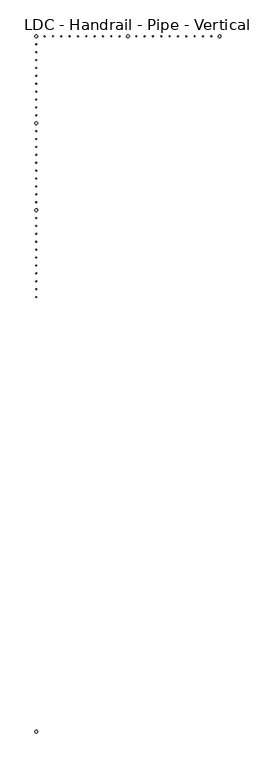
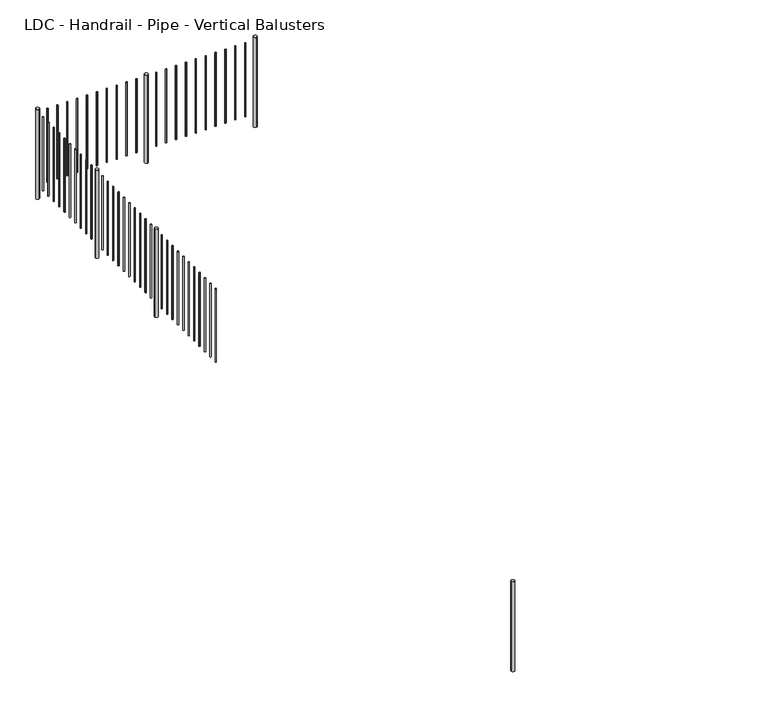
"""IFC4 building model written with IfcOpenShell, lengths in millimetres: railing geometry, LDC - Handrail - Pipe - Vertical Balusters."""

from ifc_helpers import new_model, si_unit, point, frame, frame_2d, origin, place, context, project, spatial, circle_curve, trimmed, segment, composite_curve, outline, extrude, source, transform, mapped, element, save


def ldc_handrail_pipe_vertical_balusters_2524e2be(model_context):
    return source(origin(), model_context, "Body", "SweptSolid", [
        extrude(outline(composite_curve([segment(trimmed(circle_curve(frame_2d((-5379.5016552, 6135.845986)), 6.35), [point((-5373.1516552, 6135.845986))], [point((-5385.8516552, 6135.845986))], False, "CARTESIAN"), True, "CONTINUOUS"), segment(trimmed(circle_curve(frame_2d((-5379.5016552, 6135.845986)), 6.35), [point((-5385.8516552, 6135.845986))], [point((-5373.1516552, 6135.845986))], False, "CARTESIAN"), True, "CONTINUOUS")], self_intersect=False)), frame((0.0, 0.0, 3217.1625), z_axis=(0.0, 0.0, 1.0), x_axis=(1.0, 0.0, 0.0)), (0.0, 0.0, 1.0), 871.5375),
        extrude(outline(composite_curve([segment(trimmed(circle_curve(frame_2d((-5379.5016552, 6240.9817815)), 6.35), [point((-5373.1516552, 6240.9817815))], [point((-5385.8516552, 6240.9817815))], False, "CARTESIAN"), True, "CONTINUOUS"), segment(trimmed(circle_curve(frame_2d((-5379.5016552, 6240.9817815)), 6.35), [point((-5385.8516552, 6240.9817815))], [point((-5373.1516552, 6240.9817815))], False, "CARTESIAN"), True, "CONTINUOUS")], self_intersect=False)), frame((0.0, 0.0, 3217.1625), z_axis=(0.0, 0.0, 1.0), x_axis=(1.0, 0.0, 0.0)), (0.0, 0.0, 1.0), 871.5375),
        extrude(outline(composite_curve([segment(trimmed(circle_curve(frame_2d((-5379.5016552, 6346.1175769)), 6.35), [point((-5373.1516552, 6346.1175769))], [point((-5385.8516552, 6346.1175769))], False, "CARTESIAN"), True, "CONTINUOUS"), segment(trimmed(circle_curve(frame_2d((-5379.5016552, 6346.1175769)), 6.35), [point((-5385.8516552, 6346.1175769))], [point((-5373.1516552, 6346.1175769))], False, "CARTESIAN"), True, "CONTINUOUS")], self_intersect=False)), frame((0.0, 0.0, 3217.1625), z_axis=(0.0, 0.0, 1.0), x_axis=(1.0, 0.0, 0.0)), (0.0, 0.0, 1.0), 871.5375),
        extrude(outline(composite_curve([segment(trimmed(circle_curve(frame_2d((-5379.5016552, 6451.2533724)), 6.35), [point((-5373.1516552, 6451.2533724))], [point((-5385.8516552, 6451.2533724))], False, "CARTESIAN"), True, "CONTINUOUS"), segment(trimmed(circle_curve(frame_2d((-5379.5016552, 6451.2533724)), 6.35), [point((-5385.8516552, 6451.2533724))], [point((-5373.1516552, 6451.2533724))], False, "CARTESIAN"), True, "CONTINUOUS")], self_intersect=False)), frame((0.0, 0.0, 3217.1625), z_axis=(0.0, 0.0, 1.0), x_axis=(1.0, 0.0, 0.0)), (0.0, 0.0, 1.0), 871.5375),
        extrude(outline(composite_curve([segment(trimmed(circle_curve(frame_2d((-5379.5016552, 6556.3891678)), 6.35), [point((-5373.1516552, 6556.3891678))], [point((-5385.8516552, 6556.3891678))], False, "CARTESIAN"), True, "CONTINUOUS"), segment(trimmed(circle_curve(frame_2d((-5379.5016552, 6556.3891678)), 6.35), [point((-5385.8516552, 6556.3891678))], [point((-5373.1516552, 6556.3891678))], False, "CARTESIAN"), True, "CONTINUOUS")], self_intersect=False)), frame((0.0, 0.0, 3217.1625), z_axis=(0.0, 0.0, 1.0), x_axis=(1.0, 0.0, 0.0)), (0.0, 0.0, 1.0), 871.5375),
        extrude(outline(composite_curve([segment(trimmed(circle_curve(frame_2d((-5379.5016552, 6661.5249633)), 6.35), [point((-5373.1516552, 6661.5249633))], [point((-5385.8516552, 6661.5249633))], False, "CARTESIAN"), True, "CONTINUOUS"), segment(trimmed(circle_curve(frame_2d((-5379.5016552, 6661.5249633)), 6.35), [point((-5385.8516552, 6661.5249633))], [point((-5373.1516552, 6661.5249633))], False, "CARTESIAN"), True, "CONTINUOUS")], self_intersect=False)), frame((0.0, 0.0, 3217.1625), z_axis=(0.0, 0.0, 1.0), x_axis=(1.0, 0.0, 0.0)), (0.0, 0.0, 1.0), 871.5375),
        extrude(outline(composite_curve([segment(trimmed(circle_curve(frame_2d((-5379.5016552, 6766.6607587)), 6.35), [point((-5373.1516552, 6766.6607587))], [point((-5385.8516552, 6766.6607587))], False, "CARTESIAN"), True, "CONTINUOUS"), segment(trimmed(circle_curve(frame_2d((-5379.5016552, 6766.6607587)), 6.35), [point((-5385.8516552, 6766.6607587))], [point((-5373.1516552, 6766.6607587))], False, "CARTESIAN"), True, "CONTINUOUS")], self_intersect=False)), frame((0.0, 0.0, 3217.1625), z_axis=(0.0, 0.0, 1.0), x_axis=(1.0, 0.0, 0.0)), (0.0, 0.0, 1.0), 871.5375),
        extrude(outline(composite_curve([segment(trimmed(circle_curve(frame_2d((-5379.5016552, 6871.7965542)), 6.35), [point((-5373.1516552, 6871.7965542))], [point((-5385.8516552, 6871.7965542))], False, "CARTESIAN"), True, "CONTINUOUS"), segment(trimmed(circle_curve(frame_2d((-5379.5016552, 6871.7965542)), 6.35), [point((-5385.8516552, 6871.7965542))], [point((-5373.1516552, 6871.7965542))], False, "CARTESIAN"), True, "CONTINUOUS")], self_intersect=False)), frame((0.0, 0.0, 3217.1625), z_axis=(0.0, 0.0, 1.0), x_axis=(1.0, 0.0, 0.0)), (0.0, 0.0, 1.0), 871.5375),
        extrude(outline(composite_curve([segment(trimmed(circle_curve(frame_2d((-5379.5016552, 6976.9323497)), 6.35), [point((-5373.1516552, 6976.9323497))], [point((-5385.8516552, 6976.9323497))], False, "CARTESIAN"), True, "CONTINUOUS"), segment(trimmed(circle_curve(frame_2d((-5379.5016552, 6976.9323497)), 6.35), [point((-5385.8516552, 6976.9323497))], [point((-5373.1516552, 6976.9323497))], False, "CARTESIAN"), True, "CONTINUOUS")], self_intersect=False)), frame((0.0, 0.0, 3217.1625), z_axis=(0.0, 0.0, 1.0), x_axis=(1.0, 0.0, 0.0)), (0.0, 0.0, 1.0), 871.5375),
        extrude(outline(composite_curve([segment(trimmed(circle_curve(frame_2d((-5379.5016552, 7082.0681451)), 6.35), [point((-5373.1516552, 7082.0681451))], [point((-5385.8516552, 7082.0681451))], False, "CARTESIAN"), True, "CONTINUOUS"), segment(trimmed(circle_curve(frame_2d((-5379.5016552, 7082.0681451)), 6.35), [point((-5385.8516552, 7082.0681451))], [point((-5373.1516552, 7082.0681451))], False, "CARTESIAN"), True, "CONTINUOUS")], self_intersect=False)), frame((0.0, 0.0, 3217.1625), z_axis=(0.0, 0.0, 1.0), x_axis=(1.0, 0.0, 0.0)), (0.0, 0.0, 1.0), 871.5375),
        extrude(outline(composite_curve([segment(trimmed(circle_curve(frame_2d((-5379.5016552, 7187.2039406)), 6.35), [point((-5373.1516552, 7187.2039406))], [point((-5385.8516552, 7187.2039406))], False, "CARTESIAN"), True, "CONTINUOUS"), segment(trimmed(circle_curve(frame_2d((-5379.5016552, 7187.2039406)), 6.35), [point((-5385.8516552, 7187.2039406))], [point((-5373.1516552, 7187.2039406))], False, "CARTESIAN"), True, "CONTINUOUS")], self_intersect=False)), frame((0.0, 0.0, 3217.1625), z_axis=(0.0, 0.0, 1.0), x_axis=(1.0, 0.0, 0.0)), (0.0, 0.0, 1.0), 871.5375),
        extrude(outline(composite_curve([segment(trimmed(circle_curve(frame_2d((-5379.5016552, 7292.339736)), 19.05), [point((-5360.4516552, 7292.339736))], [point((-5398.5516552, 7292.339736))], False, "CARTESIAN"), True, "CONTINUOUS"), segment(trimmed(circle_curve(frame_2d((-5379.5016552, 7292.339736)), 19.05), [point((-5398.5516552, 7292.339736))], [point((-5360.4516552, 7292.339736))], False, "CARTESIAN"), True, "CONTINUOUS")], self_intersect=False)), frame((0.0, 0.0, 3060.0), z_axis=(0.0, 0.0, 1.0), x_axis=(1.0, 0.0, 0.0)), (0.0, 0.0, 1.0), 1047.75),
        extrude(outline(composite_curve([segment(trimmed(circle_curve(frame_2d((-5379.5016552, 7292.339736)), 6.35), [point((-5373.1516552, 7292.339736))], [point((-5385.8516552, 7292.339736))], False, "CARTESIAN"), True, "CONTINUOUS"), segment(trimmed(circle_curve(frame_2d((-5379.5016552, 7292.339736)), 6.35), [point((-5385.8516552, 7292.339736))], [point((-5373.1516552, 7292.339736))], False, "CARTESIAN"), True, "CONTINUOUS")], self_intersect=False)), frame((0.0, 0.0, 3217.1625), z_axis=(0.0, 0.0, 1.0), x_axis=(1.0, 0.0, 0.0)), (0.0, 0.0, 1.0), 871.5375),
        extrude(outline(composite_curve([segment(trimmed(circle_curve(frame_2d((-5379.5016552, 7397.4755315)), 6.35), [point((-5373.1516552, 7397.4755315))], [point((-5385.8516552, 7397.4755315))], False, "CARTESIAN"), True, "CONTINUOUS"), segment(trimmed(circle_curve(frame_2d((-5379.5016552, 7397.4755315)), 6.35), [point((-5385.8516552, 7397.4755315))], [point((-5373.1516552, 7397.4755315))], False, "CARTESIAN"), True, "CONTINUOUS")], self_intersect=False)), frame((0.0, 0.0, 3217.1625), z_axis=(0.0, 0.0, 1.0), x_axis=(1.0, 0.0, 0.0)), (0.0, 0.0, 1.0), 871.5375),
        extrude(outline(composite_curve([segment(trimmed(circle_curve(frame_2d((-5379.5016552, 7502.6113269)), 6.35), [point((-5373.1516552, 7502.6113269))], [point((-5385.8516552, 7502.6113269))], False, "CARTESIAN"), True, "CONTINUOUS"), segment(trimmed(circle_curve(frame_2d((-5379.5016552, 7502.6113269)), 6.35), [point((-5385.8516552, 7502.6113269))], [point((-5373.1516552, 7502.6113269))], False, "CARTESIAN"), True, "CONTINUOUS")], self_intersect=False)), frame((0.0, 0.0, 3217.1625), z_axis=(0.0, 0.0, 1.0), x_axis=(1.0, 0.0, 0.0)), (0.0, 0.0, 1.0), 871.5375),
        extrude(outline(composite_curve([segment(trimmed(circle_curve(frame_2d((-5379.5016552, 7607.7471224)), 6.35), [point((-5373.1516552, 7607.7471224))], [point((-5385.8516552, 7607.7471224))], False, "CARTESIAN"), True, "CONTINUOUS"), segment(trimmed(circle_curve(frame_2d((-5379.5016552, 7607.7471224)), 6.35), [point((-5385.8516552, 7607.7471224))], [point((-5373.1516552, 7607.7471224))], False, "CARTESIAN"), True, "CONTINUOUS")], self_intersect=False)), frame((0.0, 0.0, 3217.1625), z_axis=(0.0, 0.0, 1.0), x_axis=(1.0, 0.0, 0.0)), (0.0, 0.0, 1.0), 871.5375),
        extrude(outline(composite_curve([segment(trimmed(circle_curve(frame_2d((-5379.5016552, 7712.8829178)), 6.35), [point((-5373.1516552, 7712.8829178))], [point((-5385.8516552, 7712.8829178))], False, "CARTESIAN"), True, "CONTINUOUS"), segment(trimmed(circle_curve(frame_2d((-5379.5016552, 7712.8829178)), 6.35), [point((-5385.8516552, 7712.8829178))], [point((-5373.1516552, 7712.8829178))], False, "CARTESIAN"), True, "CONTINUOUS")], self_intersect=False)), frame((0.0, 0.0, 3217.1625), z_axis=(0.0, 0.0, 1.0), x_axis=(1.0, 0.0, 0.0)), (0.0, 0.0, 1.0), 871.5375),
        extrude(outline(composite_curve([segment(trimmed(circle_curve(frame_2d((-5379.5016552, 7818.0187133)), 6.35), [point((-5373.1516552, 7818.0187133))], [point((-5385.8516552, 7818.0187133))], False, "CARTESIAN"), True, "CONTINUOUS"), segment(trimmed(circle_curve(frame_2d((-5379.5016552, 7818.0187133)), 6.35), [point((-5385.8516552, 7818.0187133))], [point((-5373.1516552, 7818.0187133))], False, "CARTESIAN"), True, "CONTINUOUS")], self_intersect=False)), frame((0.0, 0.0, 3217.1625), z_axis=(0.0, 0.0, 1.0), x_axis=(1.0, 0.0, 0.0)), (0.0, 0.0, 1.0), 871.5375),
        extrude(outline(composite_curve([segment(trimmed(circle_curve(frame_2d((-5379.5016552, 7923.1545087)), 6.35), [point((-5373.1516552, 7923.1545087))], [point((-5385.8516552, 7923.1545087))], False, "CARTESIAN"), True, "CONTINUOUS"), segment(trimmed(circle_curve(frame_2d((-5379.5016552, 7923.1545087)), 6.35), [point((-5385.8516552, 7923.1545087))], [point((-5373.1516552, 7923.1545087))], False, "CARTESIAN"), True, "CONTINUOUS")], self_intersect=False)), frame((0.0, 0.0, 3217.1625), z_axis=(0.0, 0.0, 1.0), x_axis=(1.0, 0.0, 0.0)), (0.0, 0.0, 1.0), 871.5375),
        extrude(outline(composite_curve([segment(trimmed(circle_curve(frame_2d((-5379.5016552, 8028.2903042)), 6.35), [point((-5373.1516552, 8028.2903042))], [point((-5385.8516552, 8028.2903042))], False, "CARTESIAN"), True, "CONTINUOUS"), segment(trimmed(circle_curve(frame_2d((-5379.5016552, 8028.2903042)), 6.35), [point((-5385.8516552, 8028.2903042))], [point((-5373.1516552, 8028.2903042))], False, "CARTESIAN"), True, "CONTINUOUS")], self_intersect=False)), frame((0.0, 0.0, 3217.1625), z_axis=(0.0, 0.0, 1.0), x_axis=(1.0, 0.0, 0.0)), (0.0, 0.0, 1.0), 871.5375),
        extrude(outline(composite_curve([segment(trimmed(circle_curve(frame_2d((-5379.5016552, 8133.4260997)), 6.35), [point((-5373.1516552, 8133.4260997))], [point((-5385.8516552, 8133.4260997))], False, "CARTESIAN"), True, "CONTINUOUS"), segment(trimmed(circle_curve(frame_2d((-5379.5016552, 8133.4260997)), 6.35), [point((-5385.8516552, 8133.4260997))], [point((-5373.1516552, 8133.4260997))], False, "CARTESIAN"), True, "CONTINUOUS")], self_intersect=False)), frame((0.0, 0.0, 3217.1625), z_axis=(0.0, 0.0, 1.0), x_axis=(1.0, 0.0, 0.0)), (0.0, 0.0, 1.0), 871.5375),
        extrude(outline(composite_curve([segment(trimmed(circle_curve(frame_2d((-5379.5016552, 8238.5618951)), 6.35), [point((-5373.1516552, 8238.5618951))], [point((-5385.8516552, 8238.5618951))], False, "CARTESIAN"), True, "CONTINUOUS"), segment(trimmed(circle_curve(frame_2d((-5379.5016552, 8238.5618951)), 6.35), [point((-5385.8516552, 8238.5618951))], [point((-5373.1516552, 8238.5618951))], False, "CARTESIAN"), True, "CONTINUOUS")], self_intersect=False)), frame((0.0, 0.0, 3217.1625), z_axis=(0.0, 0.0, 1.0), x_axis=(1.0, 0.0, 0.0)), (0.0, 0.0, 1.0), 871.5375),
        extrude(outline(composite_curve([segment(trimmed(circle_curve(frame_2d((-5379.5016552, 8343.6976906)), 6.35), [point((-5373.1516552, 8343.6976906))], [point((-5385.8516552, 8343.6976906))], False, "CARTESIAN"), True, "CONTINUOUS"), segment(trimmed(circle_curve(frame_2d((-5379.5016552, 8343.6976906)), 6.35), [point((-5385.8516552, 8343.6976906))], [point((-5373.1516552, 8343.6976906))], False, "CARTESIAN"), True, "CONTINUOUS")], self_intersect=False)), frame((0.0, 0.0, 3217.1625), z_axis=(0.0, 0.0, 1.0), x_axis=(1.0, 0.0, 0.0)), (0.0, 0.0, 1.0), 871.5375),
        extrude(outline(composite_curve([segment(trimmed(circle_curve(frame_2d((-5379.5016552, 8448.833486)), 19.05), [point((-5360.4516552, 8448.833486))], [point((-5398.5516552, 8448.833486))], False, "CARTESIAN"), True, "CONTINUOUS"), segment(trimmed(circle_curve(frame_2d((-5379.5016552, 8448.833486)), 19.05), [point((-5398.5516552, 8448.833486))], [point((-5360.4516552, 8448.833486))], False, "CARTESIAN"), True, "CONTINUOUS")], self_intersect=False)), frame((0.0, 0.0, 3060.0), z_axis=(0.0, 0.0, 1.0), x_axis=(1.0, 0.0, 0.0)), (0.0, 0.0, 1.0), 1047.75),
        extrude(outline(composite_curve([segment(trimmed(circle_curve(frame_2d((-5379.5016552, 8448.833486)), 6.35), [point((-5373.1516552, 8448.833486))], [point((-5385.8516552, 8448.833486))], False, "CARTESIAN"), True, "CONTINUOUS"), segment(trimmed(circle_curve(frame_2d((-5379.5016552, 8448.833486)), 6.35), [point((-5385.8516552, 8448.833486))], [point((-5373.1516552, 8448.833486))], False, "CARTESIAN"), True, "CONTINUOUS")], self_intersect=False)), frame((0.0, 0.0, 3217.1625), z_axis=(0.0, 0.0, 1.0), x_axis=(1.0, 0.0, 0.0)), (0.0, 0.0, 1.0), 871.5375),
        extrude(outline(composite_curve([segment(trimmed(circle_curve(frame_2d((-5379.5016552, 8553.9692815)), 6.35), [point((-5373.1516552, 8553.9692815))], [point((-5385.8516552, 8553.9692815))], False, "CARTESIAN"), True, "CONTINUOUS"), segment(trimmed(circle_curve(frame_2d((-5379.5016552, 8553.9692815)), 6.35), [point((-5385.8516552, 8553.9692815))], [point((-5373.1516552, 8553.9692815))], False, "CARTESIAN"), True, "CONTINUOUS")], self_intersect=False)), frame((0.0, 0.0, 3217.1625), z_axis=(0.0, 0.0, 1.0), x_axis=(1.0, 0.0, 0.0)), (0.0, 0.0, 1.0), 871.5375),
        extrude(outline(composite_curve([segment(trimmed(circle_curve(frame_2d((-5379.5016552, 8659.1050769)), 6.35), [point((-5373.1516552, 8659.1050769))], [point((-5385.8516552, 8659.1050769))], False, "CARTESIAN"), True, "CONTINUOUS"), segment(trimmed(circle_curve(frame_2d((-5379.5016552, 8659.1050769)), 6.35), [point((-5385.8516552, 8659.1050769))], [point((-5373.1516552, 8659.1050769))], False, "CARTESIAN"), True, "CONTINUOUS")], self_intersect=False)), frame((0.0, 0.0, 3217.1625), z_axis=(0.0, 0.0, 1.0), x_axis=(1.0, 0.0, 0.0)), (0.0, 0.0, 1.0), 871.5375),
        extrude(outline(composite_curve([segment(trimmed(circle_curve(frame_2d((-5379.5016552, 8764.2408724)), 6.35), [point((-5373.1516552, 8764.2408724))], [point((-5385.8516552, 8764.2408724))], False, "CARTESIAN"), True, "CONTINUOUS"), segment(trimmed(circle_curve(frame_2d((-5379.5016552, 8764.2408724)), 6.35), [point((-5385.8516552, 8764.2408724))], [point((-5373.1516552, 8764.2408724))], False, "CARTESIAN"), True, "CONTINUOUS")], self_intersect=False)), frame((0.0, 0.0, 3217.1625), z_axis=(0.0, 0.0, 1.0), x_axis=(1.0, 0.0, 0.0)), (0.0, 0.0, 1.0), 871.5375),
        extrude(outline(composite_curve([segment(trimmed(circle_curve(frame_2d((-5379.5016552, 8869.3766678)), 6.35), [point((-5373.1516552, 8869.3766678))], [point((-5385.8516552, 8869.3766678))], False, "CARTESIAN"), True, "CONTINUOUS"), segment(trimmed(circle_curve(frame_2d((-5379.5016552, 8869.3766678)), 6.35), [point((-5385.8516552, 8869.3766678))], [point((-5373.1516552, 8869.3766678))], False, "CARTESIAN"), True, "CONTINUOUS")], self_intersect=False)), frame((0.0, 0.0, 3217.1625), z_axis=(0.0, 0.0, 1.0), x_axis=(1.0, 0.0, 0.0)), (0.0, 0.0, 1.0), 871.5375),
        extrude(outline(composite_curve([segment(trimmed(circle_curve(frame_2d((-5379.5016552, 8974.5124633)), 6.35), [point((-5373.1516552, 8974.5124633))], [point((-5385.8516552, 8974.5124633))], False, "CARTESIAN"), True, "CONTINUOUS"), segment(trimmed(circle_curve(frame_2d((-5379.5016552, 8974.5124633)), 6.35), [point((-5385.8516552, 8974.5124633))], [point((-5373.1516552, 8974.5124633))], False, "CARTESIAN"), True, "CONTINUOUS")], self_intersect=False)), frame((0.0, 0.0, 3217.1625), z_axis=(0.0, 0.0, 1.0), x_axis=(1.0, 0.0, 0.0)), (0.0, 0.0, 1.0), 871.5375),
        extrude(outline(composite_curve([segment(trimmed(circle_curve(frame_2d((-5379.5016552, 9079.6482587)), 6.35), [point((-5373.1516552, 9079.6482587))], [point((-5385.8516552, 9079.6482587))], False, "CARTESIAN"), True, "CONTINUOUS"), segment(trimmed(circle_curve(frame_2d((-5379.5016552, 9079.6482587)), 6.35), [point((-5385.8516552, 9079.6482587))], [point((-5373.1516552, 9079.6482587))], False, "CARTESIAN"), True, "CONTINUOUS")], self_intersect=False)), frame((0.0, 0.0, 3217.1625), z_axis=(0.0, 0.0, 1.0), x_axis=(1.0, 0.0, 0.0)), (0.0, 0.0, 1.0), 871.5375),
        extrude(outline(composite_curve([segment(trimmed(circle_curve(frame_2d((-5379.5016552, 9184.7840542)), 6.35), [point((-5373.1516552, 9184.7840542))], [point((-5385.8516552, 9184.7840542))], False, "CARTESIAN"), True, "CONTINUOUS"), segment(trimmed(circle_curve(frame_2d((-5379.5016552, 9184.7840542)), 6.35), [point((-5385.8516552, 9184.7840542))], [point((-5373.1516552, 9184.7840542))], False, "CARTESIAN"), True, "CONTINUOUS")], self_intersect=False)), frame((0.0, 0.0, 3217.1625), z_axis=(0.0, 0.0, 1.0), x_axis=(1.0, 0.0, 0.0)), (0.0, 0.0, 1.0), 871.5375),
        extrude(outline(composite_curve([segment(trimmed(circle_curve(frame_2d((-5379.5016552, 9289.9198497)), 6.35), [point((-5373.1516552, 9289.9198497))], [point((-5385.8516552, 9289.9198497))], False, "CARTESIAN"), True, "CONTINUOUS"), segment(trimmed(circle_curve(frame_2d((-5379.5016552, 9289.9198497)), 6.35), [point((-5385.8516552, 9289.9198497))], [point((-5373.1516552, 9289.9198497))], False, "CARTESIAN"), True, "CONTINUOUS")], self_intersect=False)), frame((0.0, 0.0, 3217.1625), z_axis=(0.0, 0.0, 1.0), x_axis=(1.0, 0.0, 0.0)), (0.0, 0.0, 1.0), 871.5375),
        extrude(outline(composite_curve([segment(trimmed(circle_curve(frame_2d((-5379.5016552, 9395.0556451)), 6.35), [point((-5373.1516552, 9395.0556451))], [point((-5385.8516552, 9395.0556451))], False, "CARTESIAN"), True, "CONTINUOUS"), segment(trimmed(circle_curve(frame_2d((-5379.5016552, 9395.0556451)), 6.35), [point((-5385.8516552, 9395.0556451))], [point((-5373.1516552, 9395.0556451))], False, "CARTESIAN"), True, "CONTINUOUS")], self_intersect=False)), frame((0.0, 0.0, 3217.1625), z_axis=(0.0, 0.0, 1.0), x_axis=(1.0, 0.0, 0.0)), (0.0, 0.0, 1.0), 871.5375),
        extrude(outline(composite_curve([segment(trimmed(circle_curve(frame_2d((-5379.5016552, 9500.1914406)), 6.35), [point((-5373.1516552, 9500.1914406))], [point((-5385.8516552, 9500.1914406))], False, "CARTESIAN"), True, "CONTINUOUS"), segment(trimmed(circle_curve(frame_2d((-5379.5016552, 9500.1914406)), 6.35), [point((-5385.8516552, 9500.1914406))], [point((-5373.1516552, 9500.1914406))], False, "CARTESIAN"), True, "CONTINUOUS")], self_intersect=False)), frame((0.0, 0.0, 3217.1625), z_axis=(0.0, 0.0, 1.0), x_axis=(1.0, 0.0, 0.0)), (0.0, 0.0, 1.0), 871.5375),
        extrude(outline(composite_curve([segment(trimmed(circle_curve(frame_2d((-5268.3766552, 9605.327236)), 6.35), [point((-5268.3766552, 9598.977236))], [point((-5268.3766552, 9611.677236))], False, "CARTESIAN"), True, "CONTINUOUS"), segment(trimmed(circle_curve(frame_2d((-5268.3766552, 9605.327236)), 6.35), [point((-5268.3766552, 9611.677236))], [point((-5268.3766552, 9598.977236))], False, "CARTESIAN"), True, "CONTINUOUS")], self_intersect=False)), frame((0.0, 0.0, 3217.1625), z_axis=(0.0, 0.0, 1.0), x_axis=(1.0, 0.0, 0.0)), (0.0, 0.0, 1.0), 871.5375),
        extrude(outline(composite_curve([segment(trimmed(circle_curve(frame_2d((-5157.2516552, 9605.327236)), 6.35), [point((-5157.2516552, 9598.977236))], [point((-5157.2516552, 9611.677236))], False, "CARTESIAN"), True, "CONTINUOUS"), segment(trimmed(circle_curve(frame_2d((-5157.2516552, 9605.327236)), 6.35), [point((-5157.2516552, 9611.677236))], [point((-5157.2516552, 9598.977236))], False, "CARTESIAN"), True, "CONTINUOUS")], self_intersect=False)), frame((0.0, 0.0, 3217.1625), z_axis=(0.0, 0.0, 1.0), x_axis=(1.0, 0.0, 0.0)), (0.0, 0.0, 1.0), 871.5375),
        extrude(outline(composite_curve([segment(trimmed(circle_curve(frame_2d((-5046.1266552, 9605.327236)), 6.35), [point((-5046.1266552, 9598.977236))], [point((-5046.1266552, 9611.677236))], False, "CARTESIAN"), True, "CONTINUOUS"), segment(trimmed(circle_curve(frame_2d((-5046.1266552, 9605.327236)), 6.35), [point((-5046.1266552, 9611.677236))], [point((-5046.1266552, 9598.977236))], False, "CARTESIAN"), True, "CONTINUOUS")], self_intersect=False)), frame((0.0, 0.0, 3217.1625), z_axis=(0.0, 0.0, 1.0), x_axis=(1.0, 0.0, 0.0)), (0.0, 0.0, 1.0), 871.5375),
        extrude(outline(composite_curve([segment(trimmed(circle_curve(frame_2d((-4935.0016552, 9605.327236)), 6.35), [point((-4935.0016552, 9598.977236))], [point((-4935.0016552, 9611.677236))], False, "CARTESIAN"), True, "CONTINUOUS"), segment(trimmed(circle_curve(frame_2d((-4935.0016552, 9605.327236)), 6.35), [point((-4935.0016552, 9611.677236))], [point((-4935.0016552, 9598.977236))], False, "CARTESIAN"), True, "CONTINUOUS")], self_intersect=False)), frame((0.0, 0.0, 3217.1625), z_axis=(0.0, 0.0, 1.0), x_axis=(1.0, 0.0, 0.0)), (0.0, 0.0, 1.0), 871.5375),
        extrude(outline(composite_curve([segment(trimmed(circle_curve(frame_2d((-4823.8766552, 9605.327236)), 6.35), [point((-4823.8766552, 9598.977236))], [point((-4823.8766552, 9611.677236))], False, "CARTESIAN"), True, "CONTINUOUS"), segment(trimmed(circle_curve(frame_2d((-4823.8766552, 9605.327236)), 6.35), [point((-4823.8766552, 9611.677236))], [point((-4823.8766552, 9598.977236))], False, "CARTESIAN"), True, "CONTINUOUS")], self_intersect=False)), frame((0.0, 0.0, 3217.1625), z_axis=(0.0, 0.0, 1.0), x_axis=(1.0, 0.0, 0.0)), (0.0, 0.0, 1.0), 871.5375),
        extrude(outline(composite_curve([segment(trimmed(circle_curve(frame_2d((-4712.7516552, 9605.327236)), 6.35), [point((-4712.7516552, 9598.977236))], [point((-4712.7516552, 9611.677236))], False, "CARTESIAN"), True, "CONTINUOUS"), segment(trimmed(circle_curve(frame_2d((-4712.7516552, 9605.327236)), 6.35), [point((-4712.7516552, 9611.677236))], [point((-4712.7516552, 9598.977236))], False, "CARTESIAN"), True, "CONTINUOUS")], self_intersect=False)), frame((0.0, 0.0, 3217.1625), z_axis=(0.0, 0.0, 1.0), x_axis=(1.0, 0.0, 0.0)), (0.0, 0.0, 1.0), 871.5375),
        extrude(outline(composite_curve([segment(trimmed(circle_curve(frame_2d((-4601.6266552, 9605.327236)), 6.35), [point((-4601.6266552, 9598.977236))], [point((-4601.6266552, 9611.677236))], False, "CARTESIAN"), True, "CONTINUOUS"), segment(trimmed(circle_curve(frame_2d((-4601.6266552, 9605.327236)), 6.35), [point((-4601.6266552, 9611.677236))], [point((-4601.6266552, 9598.977236))], False, "CARTESIAN"), True, "CONTINUOUS")], self_intersect=False)), frame((0.0, 0.0, 3217.1625), z_axis=(0.0, 0.0, 1.0), x_axis=(1.0, 0.0, 0.0)), (0.0, 0.0, 1.0), 871.5375),
        extrude(outline(composite_curve([segment(trimmed(circle_curve(frame_2d((-4490.5016552, 9605.327236)), 6.35), [point((-4490.5016552, 9598.977236))], [point((-4490.5016552, 9611.677236))], False, "CARTESIAN"), True, "CONTINUOUS"), segment(trimmed(circle_curve(frame_2d((-4490.5016552, 9605.327236)), 6.35), [point((-4490.5016552, 9611.677236))], [point((-4490.5016552, 9598.977236))], False, "CARTESIAN"), True, "CONTINUOUS")], self_intersect=False)), frame((0.0, 0.0, 3217.1625), z_axis=(0.0, 0.0, 1.0), x_axis=(1.0, 0.0, 0.0)), (0.0, 0.0, 1.0), 871.5375),
        extrude(outline(composite_curve([segment(trimmed(circle_curve(frame_2d((-4379.3766552, 9605.327236)), 6.35), [point((-4379.3766552, 9598.977236))], [point((-4379.3766552, 9611.677236))], False, "CARTESIAN"), True, "CONTINUOUS"), segment(trimmed(circle_curve(frame_2d((-4379.3766552, 9605.327236)), 6.35), [point((-4379.3766552, 9611.677236))], [point((-4379.3766552, 9598.977236))], False, "CARTESIAN"), True, "CONTINUOUS")], self_intersect=False)), frame((0.0, 0.0, 3217.1625), z_axis=(0.0, 0.0, 1.0), x_axis=(1.0, 0.0, 0.0)), (0.0, 0.0, 1.0), 871.5375),
        extrude(outline(composite_curve([segment(trimmed(circle_curve(frame_2d((-4268.2516552, 9605.327236)), 6.35), [point((-4268.2516552, 9598.977236))], [point((-4268.2516552, 9611.677236))], False, "CARTESIAN"), True, "CONTINUOUS"), segment(trimmed(circle_curve(frame_2d((-4268.2516552, 9605.327236)), 6.35), [point((-4268.2516552, 9611.677236))], [point((-4268.2516552, 9598.977236))], False, "CARTESIAN"), True, "CONTINUOUS")], self_intersect=False)), frame((0.0, 0.0, 3217.1625), z_axis=(0.0, 0.0, 1.0), x_axis=(1.0, 0.0, 0.0)), (0.0, 0.0, 1.0), 871.5375),
        extrude(outline(composite_curve([segment(trimmed(circle_curve(frame_2d((-4157.1266552, 9605.327236)), 19.05), [point((-4157.1266552, 9586.277236))], [point((-4157.1266552, 9624.377236))], False, "CARTESIAN"), True, "CONTINUOUS"), segment(trimmed(circle_curve(frame_2d((-4157.1266552, 9605.327236)), 19.05), [point((-4157.1266552, 9624.377236))], [point((-4157.1266552, 9586.277236))], False, "CARTESIAN"), True, "CONTINUOUS")], self_intersect=False)), frame((0.0, 0.0, 3060.0), z_axis=(0.0, 0.0, 1.0), x_axis=(1.0, 0.0, 0.0)), (0.0, 0.0, 1.0), 1047.75),
        extrude(outline(composite_curve([segment(trimmed(circle_curve(frame_2d((-4157.1266552, 9605.327236)), 6.35), [point((-4157.1266552, 9598.977236))], [point((-4157.1266552, 9611.677236))], False, "CARTESIAN"), True, "CONTINUOUS"), segment(trimmed(circle_curve(frame_2d((-4157.1266552, 9605.327236)), 6.35), [point((-4157.1266552, 9611.677236))], [point((-4157.1266552, 9598.977236))], False, "CARTESIAN"), True, "CONTINUOUS")], self_intersect=False)), frame((0.0, 0.0, 3217.1625), z_axis=(0.0, 0.0, 1.0), x_axis=(1.0, 0.0, 0.0)), (0.0, 0.0, 1.0), 871.5375),
        extrude(outline(composite_curve([segment(trimmed(circle_curve(frame_2d((-4046.0016552, 9605.327236)), 6.35), [point((-4046.0016552, 9598.977236))], [point((-4046.0016552, 9611.677236))], False, "CARTESIAN"), True, "CONTINUOUS"), segment(trimmed(circle_curve(frame_2d((-4046.0016552, 9605.327236)), 6.35), [point((-4046.0016552, 9611.677236))], [point((-4046.0016552, 9598.977236))], False, "CARTESIAN"), True, "CONTINUOUS")], self_intersect=False)), frame((0.0, 0.0, 3217.1625), z_axis=(0.0, 0.0, 1.0), x_axis=(1.0, 0.0, 0.0)), (0.0, 0.0, 1.0), 871.5375),
        extrude(outline(composite_curve([segment(trimmed(circle_curve(frame_2d((-3934.8766552, 9605.327236)), 6.35), [point((-3934.8766552, 9598.977236))], [point((-3934.8766552, 9611.677236))], False, "CARTESIAN"), True, "CONTINUOUS"), segment(trimmed(circle_curve(frame_2d((-3934.8766552, 9605.327236)), 6.35), [point((-3934.8766552, 9611.677236))], [point((-3934.8766552, 9598.977236))], False, "CARTESIAN"), True, "CONTINUOUS")], self_intersect=False)), frame((0.0, 0.0, 3217.1625), z_axis=(0.0, 0.0, 1.0), x_axis=(1.0, 0.0, 0.0)), (0.0, 0.0, 1.0), 871.5375),
        extrude(outline(composite_curve([segment(trimmed(circle_curve(frame_2d((-3823.7516552, 9605.327236)), 6.35), [point((-3823.7516552, 9598.977236))], [point((-3823.7516552, 9611.677236))], False, "CARTESIAN"), True, "CONTINUOUS"), segment(trimmed(circle_curve(frame_2d((-3823.7516552, 9605.327236)), 6.35), [point((-3823.7516552, 9611.677236))], [point((-3823.7516552, 9598.977236))], False, "CARTESIAN"), True, "CONTINUOUS")], self_intersect=False)), frame((0.0, 0.0, 3217.1625), z_axis=(0.0, 0.0, 1.0), x_axis=(1.0, 0.0, 0.0)), (0.0, 0.0, 1.0), 871.5375),
        extrude(outline(composite_curve([segment(trimmed(circle_curve(frame_2d((-3712.6266552, 9605.327236)), 6.35), [point((-3712.6266552, 9598.977236))], [point((-3712.6266552, 9611.677236))], False, "CARTESIAN"), True, "CONTINUOUS"), segment(trimmed(circle_curve(frame_2d((-3712.6266552, 9605.327236)), 6.35), [point((-3712.6266552, 9611.677236))], [point((-3712.6266552, 9598.977236))], False, "CARTESIAN"), True, "CONTINUOUS")], self_intersect=False)), frame((0.0, 0.0, 3217.1625), z_axis=(0.0, 0.0, 1.0), x_axis=(1.0, 0.0, 0.0)), (0.0, 0.0, 1.0), 871.5375),
        extrude(outline(composite_curve([segment(trimmed(circle_curve(frame_2d((-3601.5016552, 9605.327236)), 6.35), [point((-3601.5016552, 9598.977236))], [point((-3601.5016552, 9611.677236))], False, "CARTESIAN"), True, "CONTINUOUS"), segment(trimmed(circle_curve(frame_2d((-3601.5016552, 9605.327236)), 6.35), [point((-3601.5016552, 9611.677236))], [point((-3601.5016552, 9598.977236))], False, "CARTESIAN"), True, "CONTINUOUS")], self_intersect=False)), frame((0.0, 0.0, 3217.1625), z_axis=(0.0, 0.0, 1.0), x_axis=(1.0, 0.0, 0.0)), (0.0, 0.0, 1.0), 871.5375),
        extrude(outline(composite_curve([segment(trimmed(circle_curve(frame_2d((-3490.3766552, 9605.327236)), 6.35), [point((-3490.3766552, 9598.977236))], [point((-3490.3766552, 9611.677236))], False, "CARTESIAN"), True, "CONTINUOUS"), segment(trimmed(circle_curve(frame_2d((-3490.3766552, 9605.327236)), 6.35), [point((-3490.3766552, 9611.677236))], [point((-3490.3766552, 9598.977236))], False, "CARTESIAN"), True, "CONTINUOUS")], self_intersect=False)), frame((0.0, 0.0, 3217.1625), z_axis=(0.0, 0.0, 1.0), x_axis=(1.0, 0.0, 0.0)), (0.0, 0.0, 1.0), 871.5375),
        extrude(outline(composite_curve([segment(trimmed(circle_curve(frame_2d((-3379.2516552, 9605.327236)), 6.35), [point((-3379.2516552, 9598.977236))], [point((-3379.2516552, 9611.677236))], False, "CARTESIAN"), True, "CONTINUOUS"), segment(trimmed(circle_curve(frame_2d((-3379.2516552, 9605.327236)), 6.35), [point((-3379.2516552, 9611.677236))], [point((-3379.2516552, 9598.977236))], False, "CARTESIAN"), True, "CONTINUOUS")], self_intersect=False)), frame((0.0, 0.0, 3217.1625), z_axis=(0.0, 0.0, 1.0), x_axis=(1.0, 0.0, 0.0)), (0.0, 0.0, 1.0), 871.5375),
        extrude(outline(composite_curve([segment(trimmed(circle_curve(frame_2d((-3268.1266552, 9605.327236)), 6.35), [point((-3268.1266552, 9598.977236))], [point((-3268.1266552, 9611.677236))], False, "CARTESIAN"), True, "CONTINUOUS"), segment(trimmed(circle_curve(frame_2d((-3268.1266552, 9605.327236)), 6.35), [point((-3268.1266552, 9611.677236))], [point((-3268.1266552, 9598.977236))], False, "CARTESIAN"), True, "CONTINUOUS")], self_intersect=False)), frame((0.0, 0.0, 3217.1625), z_axis=(0.0, 0.0, 1.0), x_axis=(1.0, 0.0, 0.0)), (0.0, 0.0, 1.0), 871.5375),
        extrude(outline(composite_curve([segment(trimmed(circle_curve(frame_2d((-3157.0016552, 9605.327236)), 6.35), [point((-3157.0016552, 9598.977236))], [point((-3157.0016552, 9611.677236))], False, "CARTESIAN"), True, "CONTINUOUS"), segment(trimmed(circle_curve(frame_2d((-3157.0016552, 9605.327236)), 6.35), [point((-3157.0016552, 9611.677236))], [point((-3157.0016552, 9598.977236))], False, "CARTESIAN"), True, "CONTINUOUS")], self_intersect=False)), frame((0.0, 0.0, 3217.1625), z_axis=(0.0, 0.0, 1.0), x_axis=(1.0, 0.0, 0.0)), (0.0, 0.0, 1.0), 871.5375),
        extrude(outline(composite_curve([segment(trimmed(circle_curve(frame_2d((-3045.8766552, 9605.327236)), 6.35), [point((-3045.8766552, 9598.977236))], [point((-3045.8766552, 9611.677236))], False, "CARTESIAN"), True, "CONTINUOUS"), segment(trimmed(circle_curve(frame_2d((-3045.8766552, 9605.327236)), 6.35), [point((-3045.8766552, 9611.677236))], [point((-3045.8766552, 9598.977236))], False, "CARTESIAN"), True, "CONTINUOUS")], self_intersect=False)), frame((0.0, 0.0, 3217.1625), z_axis=(0.0, 0.0, 1.0), x_axis=(1.0, 0.0, 0.0)), (0.0, 0.0, 1.0), 871.5375),
        extrude(outline(composite_curve([segment(trimmed(circle_curve(frame_2d((-5379.5016552, 9605.327236)), 19.05), [point((-5379.5016552, 9586.277236))], [point((-5379.5016552, 9624.377236))], False, "CARTESIAN"), True, "CONTINUOUS"), segment(trimmed(circle_curve(frame_2d((-5379.5016552, 9605.327236)), 19.05), [point((-5379.5016552, 9624.377236))], [point((-5379.5016552, 9586.277236))], False, "CARTESIAN"), True, "CONTINUOUS")], self_intersect=False)), frame((0.0, 0.0, 3060.0), z_axis=(0.0, 0.0, 1.0), x_axis=(1.0, 0.0, 0.0)), (0.0, 0.0, 1.0), 1066.8),
        extrude(outline(composite_curve([segment(trimmed(circle_curve(frame_2d((-5379.5016552, 353.377236)), 19.05), [point((-5360.4516552, 353.377236))], [point((-5398.5516552, 353.377236))], False, "CARTESIAN"), True, "CONTINUOUS"), segment(trimmed(circle_curve(frame_2d((-5379.5016552, 353.377236)), 19.05), [point((-5398.5516552, 353.377236))], [point((-5360.4516552, 353.377236))], False, "CARTESIAN"), True, "CONTINUOUS")], self_intersect=False)), frame((0.0, 0.0, 3060.0), z_axis=(0.0, 0.0, 1.0), x_axis=(1.0, 0.0, 0.0)), (0.0, 0.0, 1.0), 1066.8),
        extrude(outline(composite_curve([segment(trimmed(circle_curve(frame_2d((-2934.7516552, 9605.327236)), 19.05), [point((-2934.7516552, 9586.277236))], [point((-2934.7516552, 9624.377236))], False, "CARTESIAN"), True, "CONTINUOUS"), segment(trimmed(circle_curve(frame_2d((-2934.7516552, 9605.327236)), 19.05), [point((-2934.7516552, 9624.377236))], [point((-2934.7516552, 9586.277236))], False, "CARTESIAN"), True, "CONTINUOUS")], self_intersect=False)), frame((0.0, 0.0, 3060.0), z_axis=(0.0, 0.0, 1.0), x_axis=(1.0, 0.0, 0.0)), (0.0, 0.0, 1.0), 1066.8),
    ])


if __name__ == "__main__":
    model = new_model("IFC4")
    model_context = context("Model", 3, world=origin())
    ifc_project = project(units=[si_unit("LENGTHUNIT", "METRE", prefix="MILLI")], contexts=[model_context])
    site = spatial("IfcSite", under=ifc_project)
    building = spatial("IfcBuilding", under=site)
    placement = place(None, origin())
    ldc_handrail_pipe_vertical_balusters_shape = ldc_handrail_pipe_vertical_balusters_2524e2be(model_context)
    element("IfcRailing", 1, ObjectType="LDC - Handrail - Pipe - Vertical Balusters", at=placement, inside=building, context=model_context, shape_type="MappedRepresentation", body=[
        mapped(ldc_handrail_pipe_vertical_balusters_shape, transform((0.0, 0.0, 0.0), x_axis=(1.0, 0.0, 0.0), y_axis=(0.0, 1.0, 0.0), z_axis=(0.0, 0.0, 1.0))),
    ])
    save(model, "model.ifc")
